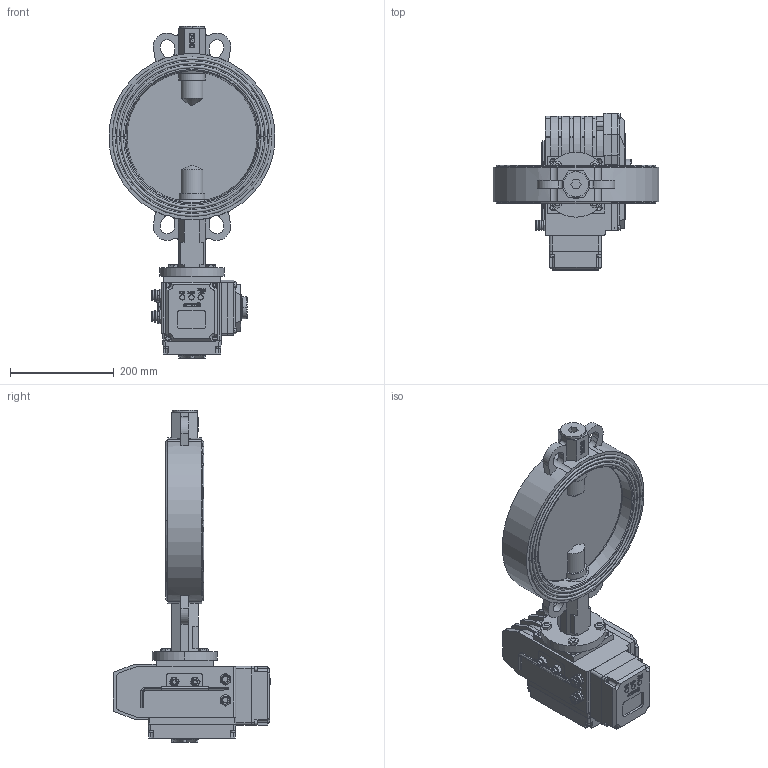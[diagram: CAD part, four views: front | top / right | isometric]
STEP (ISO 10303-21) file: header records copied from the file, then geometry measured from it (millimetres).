
FILE_DESCRIPTION((''),'2;1');
FILE_NAME('VBS_EAR_A_ASM','2025-02-22T',('AMD'),(''),'PRO/ENGINEER BY PARAMETRIC TECHNOLOGY CORPORATION, 2008020','PRO/ENGINEER BY PARAMETRIC TECHNOLOGY CORPORATION, 2008020','');
FILE_SCHEMA(('CONFIG_CONTROL_DESIGN'));
Length unit declared in the file: millimetre
Products named in the file (28): KORPUS; REZ; DISK; SHTIR_1; ZAGLUSHKA; O-RING; SHTIR_2; SHAIBA_RAZREZ; SHAIBA; KOLCO_40_GOST13943; VTULKA; MANZET_REZ; SB_ASM; B-7798-M10-30; DET_1; V-11738-M5; V-11738-M4; DET_2; KREPLENIE; KLUCH; DET_3; G-5915-M10; ELECTROPRIVOD_ASM; DET_4; DET_5; DISPLAY_ASM; ELECTROPRIVOD_WITH_DISPLAY_ASM; VBS_EAR_A_ASM
Assembly tree (53 placements, depth 4):
  VBS_EAR_A_ASM
    SB_ASM
      KORPUS
      REZ
      DISK
      SHTIR_1
      ZAGLUSHKA
      O-RING  x2
      SHTIR_2
      SHAIBA_RAZREZ
      SHAIBA  x2
      KOLCO_40_GOST13943
      VTULKA  x5
      MANZET_REZ
    B-7798-M10-30  x4
    ELECTROPRIVOD_WITH_DISPLAY_ASM
      ELECTROPRIVOD_ASM
        DET_1
        V-11738-M5  x10
        V-11738-M4  x4
        DET_2
        KREPLENIE
        KLUCH
        DET_3
        G-5915-M10  x2
      DISPLAY_ASM
        DET_4
        DET_5
        V-11738-M5  x4
Bounding box: 318.87 x 302 x 638.5 mm (x, y, z)
Volume: 8252090.5 mm3; surface area: 1126537.9 mm2
Topology: 49 solids, 92 shells, 2822 faces, 7466 edges, 4925 vertices
Faces by surface type: plane 1877, cylinder 505, extrusion 300, cone 102, torus 38
Entity records: 78366 total; most frequent: CARTESIAN_POINT 16404, ORIENTED_EDGE 13076, DIRECTION 11737, EDGE_CURVE 6586, VECTOR 5237, LINE 4937, VERTEX_POINT 4359, AXIS2_PLACEMENT_3D 3250
